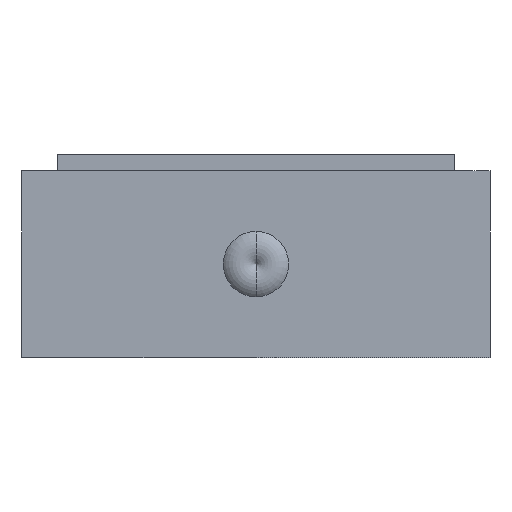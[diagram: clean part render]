
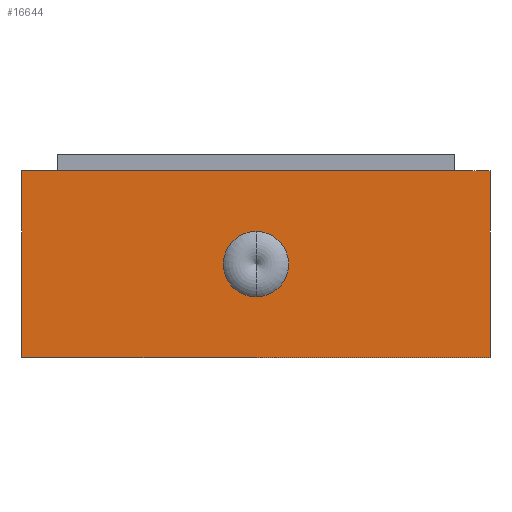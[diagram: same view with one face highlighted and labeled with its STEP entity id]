
A CAD part, front view. The second image highlights one B-rep face of the part: STEP entity #16644.
In plain terms, the highlighted planar face has unit normal (0, -1, 0).
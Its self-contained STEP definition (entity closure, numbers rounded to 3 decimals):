
#3291 = PLANE ( 'NONE',  #3350 ) ;
#3307 = FACE_BOUND ( 'NONE', #16654, .T. ) ;
#3308 = FACE_OUTER_BOUND ( 'NONE', #16645, .T. ) ;
#3324 = CARTESIAN_POINT ( 'NONE',  ( 20.035, -49.086, -16.002 ) ) ;
#3325 = DIRECTION ( 'NONE',  ( 1., 0., 0. ) ) ;
#3326 = VECTOR ( 'NONE', #3325, 1000. ) ;
#3327 = CARTESIAN_POINT ( 'NONE',  ( -20.035, -49.086, -16.002 ) ) ;
#3328 = LINE ( 'NONE', #3327, #3326 ) ;
#3334 = DIRECTION ( 'NONE',  ( 0., 0., 1. ) ) ;
#3335 = VECTOR ( 'NONE', #3334, 1000. ) ;
#3336 = CARTESIAN_POINT ( 'NONE',  ( 20.035, -49.086, -16.002 ) ) ;
#3337 = LINE ( 'NONE', #3336, #3335 ) ;
#3338 = DIRECTION ( 'NONE',  ( 1., 0., 0. ) ) ;
#3339 = VECTOR ( 'NONE', #3338, 1000. ) ;
#3340 = CARTESIAN_POINT ( 'NONE',  ( -20.035, -49.086, 0. ) ) ;
#3341 = LINE ( 'NONE', #3340, #3339 ) ;
#3347 = DIRECTION ( 'NONE',  ( 0., 0., -1. ) ) ;
#3348 = DIRECTION ( 'NONE',  ( 0., -1., 0. ) ) ;
#3349 = CARTESIAN_POINT ( 'NONE',  ( -20.035, -49.086, -16.002 ) ) ;
#3350 = AXIS2_PLACEMENT_3D ( 'NONE', #3349, #3348, #3347 ) ;
#3472 = DIRECTION ( 'NONE',  ( 0., 0., 1. ) ) ;
#3473 = DIRECTION ( 'NONE',  ( 0., 1., 0. ) ) ;
#3474 = CARTESIAN_POINT ( 'NONE',  ( 0., -49.086, -8.001 ) ) ;
#3475 = AXIS2_PLACEMENT_3D ( 'NONE', #3474, #3473, #3472 ) ;
#3476 = CIRCLE ( 'NONE', #3475, 2.797 ) ;
#3477 = CARTESIAN_POINT ( 'NONE',  ( -20.035, -49.086, -16.002 ) ) ;
#3478 = DIRECTION ( 'NONE',  ( 0., 0., 1. ) ) ;
#3479 = VECTOR ( 'NONE', #3478, 1000. ) ;
#3480 = CARTESIAN_POINT ( 'NONE',  ( -20.035, -49.086, -16.002 ) ) ;
#3481 = LINE ( 'NONE', #3480, #3479 ) ;
#3516 = CARTESIAN_POINT ( 'NONE',  ( 20.035, -49.086, 0. ) ) ;
#15905 = VERTEX_POINT ( 'NONE', #26876 ) ;
#15993 = VERTEX_POINT ( 'NONE', #27084 ) ;
#16231 = VERTEX_POINT ( 'NONE', #27774 ) ;
#16307 = EDGE_CURVE ( 'NONE', #16231, #15993, #28009, .T. ) ;
#16641 = ORIENTED_EDGE ( 'NONE', *, *, #16693, .F. ) ;
#16644 = ADVANCED_FACE ( 'NONE', ( #3308, #3307 ), #3291, .T. ) ;
#16645 = EDGE_LOOP ( 'NONE', ( #16711, #16641, #16661, #16713 ) ) ;
#16646 = ORIENTED_EDGE ( 'NONE', *, *, #16695, .T. ) ;
#16652 = EDGE_CURVE ( 'NONE', #15905, #16703, #3341, .T. ) ;
#16653 = EDGE_CURVE ( 'NONE', #16660, #16703, #3337, .T. ) ;
#16654 = EDGE_LOOP ( 'NONE', ( #16712, #16646 ) ) ;
#16659 = EDGE_CURVE ( 'NONE', #16694, #16660, #3328, .T. ) ;
#16660 = VERTEX_POINT ( 'NONE', #3324 ) ;
#16661 = ORIENTED_EDGE ( 'NONE', *, *, #16659, .T. ) ;
#16693 = EDGE_CURVE ( 'NONE', #16694, #15905, #3481, .T. ) ;
#16694 = VERTEX_POINT ( 'NONE', #3477 ) ;
#16695 = EDGE_CURVE ( 'NONE', #15993, #16231, #3476, .T. ) ;
#16703 = VERTEX_POINT ( 'NONE', #3516 ) ;
#16711 = ORIENTED_EDGE ( 'NONE', *, *, #16652, .F. ) ;
#16712 = ORIENTED_EDGE ( 'NONE', *, *, #16307, .T. ) ;
#16713 = ORIENTED_EDGE ( 'NONE', *, *, #16653, .T. ) ;
#26876 = CARTESIAN_POINT ( 'NONE',  ( -20.035, -49.086, 0. ) ) ;
#27084 = CARTESIAN_POINT ( 'NONE',  ( 0., -49.086, -10.798 ) ) ;
#27774 = CARTESIAN_POINT ( 'NONE',  ( 0., -49.086, -5.204 ) ) ;
#28005 = DIRECTION ( 'NONE',  ( 0., 0., 1. ) ) ;
#28006 = DIRECTION ( 'NONE',  ( 0., 1., 0. ) ) ;
#28007 = CARTESIAN_POINT ( 'NONE',  ( 0., -49.086, -8.001 ) ) ;
#28008 = AXIS2_PLACEMENT_3D ( 'NONE', #28007, #28006, #28005 ) ;
#28009 = CIRCLE ( 'NONE', #28008, 2.797 ) ;
